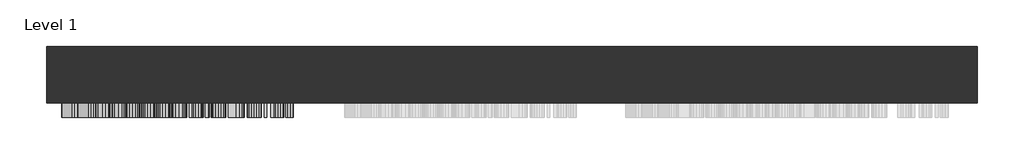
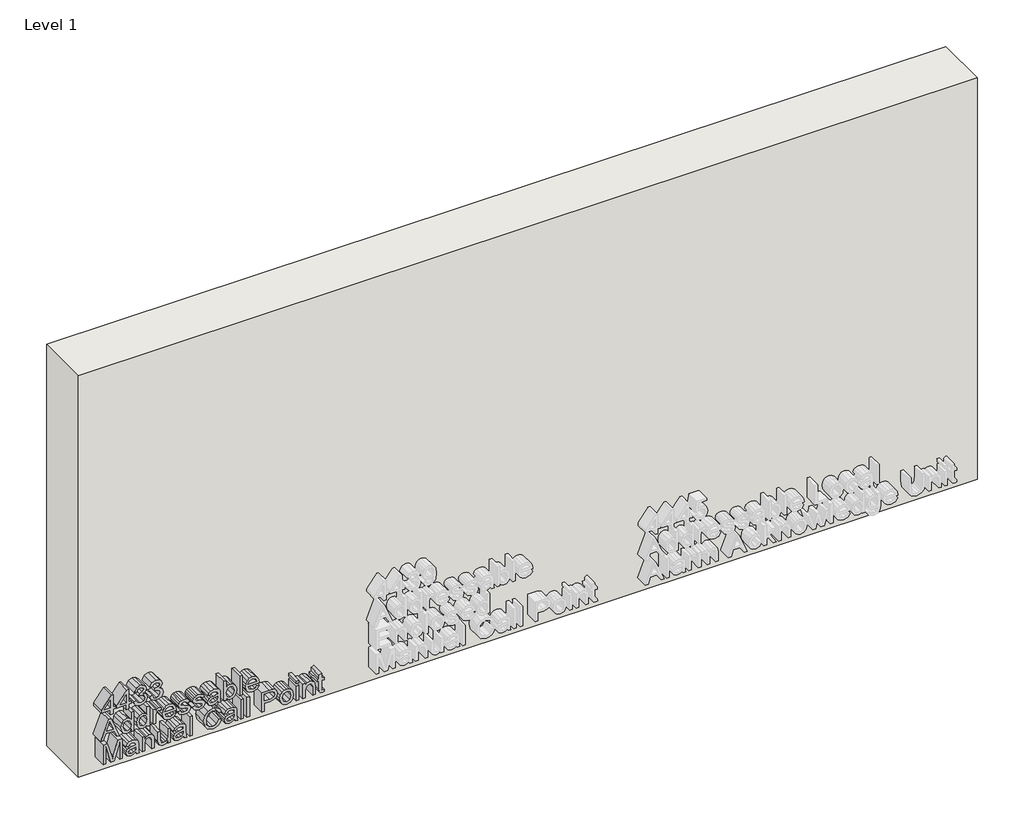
# One storey, part 1 of 3: 1 proxy, 1 wall.
"""IFC4 building model written with IfcOpenShell, lengths in millimetres."""

from ifc_helpers import new_model, si_unit, frame, origin, origin_with_axes, place, context, project, spatial, polyline, outline, extrude, element, save

model = new_model("IFC4")

# Units and contexts
model_context = context("Model", 3, world=origin())
ifc_project = project(units=[si_unit("LENGTHUNIT", "METRE", prefix="MILLI")], contexts=[model_context])

# Site, building, storey
site = spatial("IfcSite", under=ifc_project)
building = spatial("IfcBuilding", under=site)
storey = spatial("IfcBuildingStorey", under=building, Name="Level 1", Elevation=0.0)

# Proxy
placement = place(None, origin())
element("IfcBuildingElementProxy", 1, Name="75 mm Arial", ObjectType="75 mm Arial", at=placement, inside=storey, context=model_context, shape_type="SweptSolid", body=[
    extrude(outline(polyline([(239.699397, -4253.7442573), (239.699397, -4244.3264782), (257.3577328, -4244.3264782), (257.3577328, -4234.9086991), (266.7755119, -4234.9086991), (266.7755119, -4244.3264782), (313.8644073, -4244.3264782), (313.8644073, -4251.3898125), (266.7755119, -4287.8837064), (257.3577328, -4287.8837064), (257.3577328, -4253.7442573), (239.699397, -4253.7442573)]), holes=[polyline([(266.7755119, -4253.7442573), (266.7755119, -4276.2954236), (295.8749777, -4253.7442573), (266.7755119, -4253.7442573)])]), frame((0.0, 3097.8550077, 0.0), z_axis=(0.0, 1.0, 0.0), x_axis=(0.0, 0.0, 1.0)), (0.0, 0.0, 1.0), 50.0),
    extrude(outline(polyline([(239.699397, -4196.0603604), (239.699397, -4186.6425814), (257.3577328, -4186.6425814), (257.3577328, -4177.2248023), (266.7755119, -4177.2248023), (266.7755119, -4186.6425814), (313.8644073, -4186.6425814), (313.8644073, -4193.7059157), (266.7755119, -4230.1998096), (257.3577328, -4230.1998096), (257.3577328, -4196.0603604), (239.699397, -4196.0603604)]), holes=[polyline([(266.7755119, -4196.0603604), (266.7755119, -4218.6115267), (295.8749777, -4196.0603604), (266.7755119, -4196.0603604)])]), frame((0.0, 3097.8550077, 0.0), z_axis=(0.0, 1.0, 0.0), x_axis=(0.0, 0.0, 1.0)), (0.0, 0.0, 1.0), 50.0),
    extrude(outline(polyline([(259.7121776, -4168.9842456), (251.2003079, -4166.6527934), (244.4266807, -4161.497847), (239.9983012, -4154.0850248), (238.5221747, -4144.9799454), (240.25122, -4134.9137743), (245.4383562, -4126.7513925), (253.1086958, -4121.3435272), (262.2873515, -4119.5409054), (274.537822, -4123.146149), (280.9757569, -4133.4100567), (287.2113567, -4125.6845348), (295.8933718, -4123.0725726), (305.3939243, -4125.8224905), (312.4572586, -4133.7687416), (315.0416297, -4145.1270982), (309.7993112, -4160.0998954), (295.0288491, -4167.8070232), (293.8516267, -4158.3892441), (302.6807946, -4153.7723251), (305.6238506, -4144.7960044), (302.7083858, -4135.9300483), (295.3415488, -4132.4903517), (287.0274157, -4137.2360294), (284.4338477, -4149.4313175), (275.0160686, -4150.4797812), (276.0461382, -4143.8762994), (272.1925743, -4133.1709334), (262.4528984, -4128.9586845), (252.1154144, -4133.2077216), (247.9399537, -4144.6488516), (250.9749802, -4154.3701333), (260.8894, -4159.5664665), (259.7121776, -4168.9842456)])), frame((0.0, 3097.8550077, 0.0), z_axis=(0.0, 1.0, 0.0), x_axis=(0.0, 0.0, 1.0)), (0.0, 0.0, 1.0), 50.0),
    extrude(outline(polyline([(259.7121776, -4111.3003487), (251.2003079, -4108.9688966), (244.4266807, -4103.8139501), (239.9983012, -4096.4011279), (238.5221747, -4087.2960486), (240.25122, -4077.2298775), (245.4383562, -4069.0674957), (253.1086958, -4063.6596304), (262.2873515, -4061.8570086), (274.537822, -4065.4622521), (280.9757569, -4075.7261598), (287.2113567, -4068.0006379), (295.8933718, -4065.3886757), (305.3939243, -4068.1385937), (312.4572586, -4076.0848448), (315.0416297, -4087.4432014), (309.7993112, -4102.4159986), (295.0288491, -4110.1231264), (293.8516267, -4100.7053473), (302.6807946, -4096.0884282), (305.6238506, -4087.1121076), (302.7083858, -4078.2461515), (295.3415488, -4074.8064548), (287.0274157, -4079.5521326), (284.4338477, -4091.7474207), (275.0160686, -4092.7958844), (276.0461382, -4086.1924026), (272.1925743, -4075.4870365), (262.4528984, -4071.2747877), (252.1154144, -4075.5238247), (247.9399537, -4086.9649548), (250.9749802, -4096.6862365), (260.8894, -4101.8825697), (259.7121776, -4111.3003487)])), frame((0.0, 3097.8550077, 0.0), z_axis=(0.0, 1.0, 0.0), x_axis=(0.0, 0.0, 1.0)), (0.0, 0.0, 1.0), 50.0),
    extrude(outline(polyline([(148.2182837, -4289.5943577), (148.2182837, -4279.6431497), (171.7627313, -4271.034711), (171.7627313, -4240.0038648), (148.2182837, -4231.377032), (148.2182837, -4221.425824), (223.5605163, -4251.5001771), (223.5605163, -4259.5200046), (148.2182837, -4289.5943577)]), holes=[polyline([(181.1805104, -4267.5766203), (201.3220497, -4260.2005863), (214.1427372, -4255.5100909), (199.7033689, -4250.2309842), (181.1805104, -4243.4435614), (181.1805104, -4267.5766203)])]), frame((0.0, 3097.8550077, 0.0), z_axis=(0.0, 1.0, 0.0), x_axis=(0.0, 0.0, 1.0)), (0.0, 0.0, 1.0), 50.0),
    extrude(outline(polyline([(148.2182837, -4178.4020247), (148.2182837, -4168.9842456), (223.5605163, -4168.9842456), (223.5605163, -4178.4020247), (195.49112, -4178.4020247), (202.1589812, -4184.6008363), (204.7249581, -4193.2828514), (201.1381087, -4205.3033956), (190.8190187, -4213.3784054), (175.8278274, -4216.073141), (160.8458331, -4213.1484791), (150.683093, -4204.9079224), (147.0410613, -4193.2460632), (149.5564544, -4184.633026), (157.1026338, -4178.4020247), (148.2182837, -4178.4020247)]), holes=[polyline([(175.8646156, -4206.6553619), (190.6258807, -4202.6822363), (195.307179, -4192.7678166), (190.4327426, -4182.5498942), (175.1472457, -4178.4020247), (161.0665623, -4182.4763178), (156.4588403, -4192.3815405), (161.2872915, -4202.4063248), (175.8646156, -4206.6553619)])]), frame((0.0, 3097.8550077, 0.0), z_axis=(0.0, 1.0, 0.0), x_axis=(0.0, 0.0, 1.0)), (0.0, 0.0, 1.0), 50.0),
    extrude(outline(polyline([(148.2182837, -4120.7181278), (148.2182837, -4111.3003487), (223.5605163, -4111.3003487), (223.5605163, -4120.7181278), (195.49112, -4120.7181278), (202.1589812, -4126.9169394), (204.7249581, -4135.5989545), (201.1381087, -4147.6194987), (190.8190187, -4155.6945085), (175.8278274, -4158.3892441), (160.8458331, -4155.4645823), (150.683093, -4147.2240256), (147.0410613, -4135.5621663), (149.5564544, -4126.9491291), (157.1026338, -4120.7181278), (148.2182837, -4120.7181278)]), holes=[polyline([(175.8646156, -4148.971465), (190.6258807, -4144.9983395), (195.307179, -4135.0839197), (190.4327426, -4124.8659973), (175.1472457, -4120.7181278), (161.0665623, -4124.7924209), (156.4588403, -4134.6976436), (161.2872915, -4144.722428), (175.8646156, -4148.971465)])]), frame((0.0, 3097.8550077, 0.0), z_axis=(0.0, 1.0, 0.0), x_axis=(0.0, 0.0, 1.0)), (0.0, 0.0, 1.0), 50.0),
    extrude(outline(polyline([(148.2182837, -4097.1736801), (148.2182837, -4087.7559011), (177.2993554, -4087.7559011), (188.299027, -4086.2291908), (193.449375, -4082.8354794), (195.307179, -4077.5103875), (193.3757986, -4070.8885116), (201.8186904, -4067.7431205), (204.7249581, -4077.1976878), (202.9039422, -4083.0837997), (195.3623613, -4088.9331234), (203.5477357, -4088.9331234), (203.5477357, -4097.1736801), (148.2182837, -4097.1736801)])), frame((0.0, 3097.8550077, 0.0), z_axis=(0.0, 1.0, 0.0), x_axis=(0.0, 0.0, 1.0)), (0.0, 0.0, 1.0), 50.0),
    extrude(outline(polyline([(164.699397, -4023.1190345), (158.427009, -4029.1890874), (156.4588403, -4038.4229255), (160.7078774, -4050.5538343), (172.9399537, -4055.9708967), (172.9399537, -4013.6460731), (175.4783395, -4013.5908908), (187.825379, -4015.3774178), (197.0546185, -4020.7369986), (202.8073732, -4028.9108767), (204.7249581, -4039.1402954), (202.8027747, -4049.6985087), (197.0362244, -4058.0862181), (187.7885908, -4063.5630613), (175.4231572, -4065.3886757), (163.4600946, -4063.5814554), (154.4998687, -4058.1597945), (148.9057631, -4049.6571219), (147.0410613, -4038.6068665), (151.3636747, -4022.5212263), (163.5221747, -4013.8851964), (164.699397, -4023.1190345)]), holes=[polyline([(182.3577328, -4055.9708967), (191.7847089, -4050.7745635), (195.307179, -4039.1770836), (190.8925951, -4026.7794604), (182.3577328, -4023.0086699), (182.3577328, -4055.9708967)])]), frame((0.0, 3097.8550077, 0.0), z_axis=(0.0, 1.0, 0.0), x_axis=(0.0, 0.0, 1.0)), (0.0, 0.0, 1.0), 50.0),
    extrude(outline(polyline([(164.699397, -4007.7047789), (151.4924334, -4000.4942918), (147.0410613, -3984.0683607), (149.3495208, -3972.4065015), (155.8886233, -3964.5246297), (164.9017321, -3961.7931059), (173.0871065, -3964.1199595), (178.1086958, -3970.5395003), (182.5416738, -3984.3626663), (184.5466307, -3992.4744643), (186.625164, -3995.9877374), (189.3658848, -3997.1097774), (193.5229514, -3994.4058448), (195.307179, -3985.3927359), (193.4401779, -3977.106194), (188.2438447, -3973.5653297), (189.4210671, -3964.1475507), (197.873156, -3967.3849122), (202.8763511, -3974.6689757), (204.7249581, -3986.1284999), (203.5753269, -3994.2311008), (200.7886208, -4000.2183803), (195.4267407, -4004.8352993), (188.4093916, -4006.5275565), (180.8126284, -4004.4214321), (175.4323543, -3998.2318175), (170.8246323, -3984.0499666), (168.1390937, -3974.356276), (163.9084508, -3971.210885), (158.6845264, -3974.3378819), (156.4588403, -3983.939602), (158.8868615, -3993.9275982), (165.8766194, -3998.2869998), (164.699397, -4007.7047789)])), frame((0.0, 3097.8550077, 0.0), z_axis=(0.0, 1.0, 0.0), x_axis=(0.0, 0.0, 1.0)), (0.0, 0.0, 1.0), 50.0),
    extrude(outline(polyline([(164.699397, -3954.7297716), (151.4924334, -3947.5192845), (147.0410613, -3931.0933534), (149.3495208, -3919.4314942), (155.8886233, -3911.5496224), (164.9017321, -3908.8180986), (173.0871065, -3911.1449522), (178.1086958, -3917.564493), (182.5416738, -3931.387659), (184.5466307, -3939.499457), (186.625164, -3943.01273), (189.3658848, -3944.1347701), (193.5229514, -3941.4308375), (195.307179, -3932.4177286), (193.4401779, -3924.1311866), (188.2438447, -3920.5903224), (189.4210671, -3911.1725434), (197.873156, -3914.4099049), (202.8763511, -3921.6939684), (204.7249581, -3933.1534926), (203.5753269, -3941.2560935), (200.7886208, -3947.243373), (195.4267407, -3951.860292), (188.4093916, -3953.5525492), (180.8126284, -3951.4464248), (175.4323543, -3945.2568102), (170.8246323, -3931.0749593), (168.1390937, -3921.3812687), (163.9084508, -3918.2358777), (158.6845264, -3921.3628746), (156.4588403, -3930.9645947), (158.8868615, -3940.9525909), (165.8766194, -3945.3119925), (164.699397, -3954.7297716)])), frame((0.0, 3097.8550077, 0.0), z_axis=(0.0, 1.0, 0.0), x_axis=(0.0, 0.0, 1.0)), (0.0, 0.0, 1.0), 50.0),
    extrude(outline(polyline([(155.281618, -3862.9064256), (148.2182837, -3860.5519808), (148.2182837, -3851.1342018), (156.1369436, -3853.0103999), (172.4984953, -3853.4886465), (184.2155369, -3853.4886465), (192.4560936, -3853.948499), (198.8480432, -3856.8363727), (203.051095, -3863.2835046), (204.7249581, -3874.6970435), (202.8303658, -3887.1222579), (197.4408946, -3895.3260264), (188.2438447, -3899.4003195), (187.0666223, -3889.9825404), (193.4953602, -3885.4391978), (195.307179, -3875.9110541), (192.5848523, -3865.4999937), (185.6318826, -3862.9064256), (183.5349552, -3862.9616079), (180.2975936, -3879.2955685), (178.881248, -3887.4441547), (175.7910392, -3894.0384394), (170.3831739, -3898.7749201), (162.9335635, -3900.5775419), (151.5108275, -3895.804273), (147.0410613, -3882.1282598), (148.8988653, -3872.0390961), (155.281618, -3862.9064256)]), holes=[polyline([(174.1171761, -3862.9064256), (171.4500317, -3862.9616079), (164.1659681, -3864.45153), (158.7121176, -3870.5951593), (156.4588403, -3880.123303), (158.5005854, -3888.3546626), (163.5957511, -3891.1597628), (167.2193887, -3889.8721758), (169.7025922, -3886.2025529), (171.2293025, -3878.099952), (174.1171761, -3862.9064256)])]), frame((0.0, 3097.8550077, 0.0), z_axis=(0.0, 1.0, 0.0), x_axis=(0.0, 0.0, 1.0)), (0.0, 0.0, 1.0), 50.0),
    extrude(outline(polyline([(148.2182837, -3831.1214212), (157.0290574, -3831.1214212), (149.5380603, -3824.7616612), (147.0410613, -3816.3877473), (148.9770403, -3807.6114625), (154.7849773, -3800.1917425), (164.138377, -3795.1356643), (176.7107442, -3793.4503049), (187.9403421, -3795.0781827), (196.9074657, -3799.5755401), (202.674016, -3806.8963918), (204.7249581, -3816.332565), (202.4486883, -3824.5271365), (195.6198787, -3831.1214212), (223.5605163, -3831.1214212), (223.5605163, -3840.5392003), (148.2182837, -3840.5392003), (148.2182837, -3831.1214212)]), holes=[polyline([(176.2692858, -3831.1214212), (190.4143485, -3826.8723842), (195.307179, -3816.7924175), (190.5798954, -3806.9423771), (175.938192, -3802.868084), (161.3516709, -3807.117121), (156.4588403, -3817.1970877), (158.1189079, -3823.61203), (163.0991104, -3828.5462472), (176.2692858, -3831.1214212)])]), frame((0.0, 3097.8550077, 0.0), z_axis=(0.0, 1.0, 0.0), x_axis=(0.0, 0.0, 1.0)), (0.0, 0.0, 1.0), 50.0),
    extrude(outline(polyline([(-3773.4375244, 3097.8550077), (-3782.8553034, 3097.8550077), (-3782.8553034, 3147.8550077), (-3773.4375244, 3147.8550077), (-3773.4375244, 3097.8550077)])), frame((0.0, 0.0, 148.2182837), z_axis=(0.0, 0.0, 1.0), x_axis=(1.0, 0.0, 0.0)), (0.0, 0.0, 1.0), 75.3422326),
    extrude(outline(polyline([(164.699397, -3720.5728817), (158.427009, -3726.6429346), (156.4588403, -3735.8767727), (160.7078774, -3748.0076815), (172.9399537, -3753.4247438), (172.9399537, -3711.0999203), (175.4783395, -3711.044738), (187.825379, -3712.8312649), (197.0546185, -3718.1908457), (202.8073732, -3726.3647238), (204.7249581, -3736.5941426), (202.8027747, -3747.1523558), (197.0362244, -3755.5400653), (187.7885908, -3761.0169085), (175.4231572, -3762.8425229), (163.4600946, -3761.0353026), (154.4998687, -3755.6136417), (148.9057631, -3747.1109691), (147.0410613, -3736.0607137), (151.3636747, -3719.9750734), (163.5221747, -3711.3390436), (164.699397, -3720.5728817)]), holes=[polyline([(182.3577328, -3753.4247438), (191.7847089, -3748.2284107), (195.307179, -3736.6309308), (190.8925951, -3724.2333075), (182.3577328, -3720.4625171), (182.3577328, -3753.4247438)])]), frame((0.0, 3097.8550077, 0.0), z_axis=(0.0, 1.0, 0.0), x_axis=(0.0, 0.0, 1.0)), (0.0, 0.0, 1.0), 50.0),
    extrude(outline(polyline([(56.7371703, -4280.8203721), (56.7371703, -4271.402593), (122.6616238, -4271.402593), (56.7371703, -4252.4750644), (56.7371703, -4239.7095592), (122.6616238, -4220.7820305), (56.7371703, -4220.7820305), (56.7371703, -4211.3642514), (132.0794029, -4211.3642514), (132.0794029, -4227.5694533), (79.8953419, -4242.7261915), (67.8839947, -4246.0923118), (78.9756369, -4249.2009146), (132.0794029, -4264.6151702), (132.0794029, -4280.8203721), (56.7371703, -4280.8203721)])), frame((0.0, 3097.8550077, 0.0), z_axis=(0.0, 1.0, 0.0), x_axis=(0.0, 0.0, 1.0)), (0.0, 0.0, 1.0), 50.0),
    extrude(outline(polyline([(63.8005046, -4160.7436889), (56.7371703, -4158.3892441), (56.7371703, -4148.971465), (64.6558302, -4150.8476632), (81.017382, -4151.3259098), (92.7344235, -4151.3259098), (100.9749802, -4151.7857623), (107.3669299, -4154.673636), (111.5699817, -4161.1207679), (113.2438447, -4172.5343068), (111.3492525, -4184.9595212), (105.9597812, -4193.1632897), (96.7627313, -4197.2375828), (95.585509, -4187.8198037), (102.0142468, -4183.2764611), (103.8260657, -4173.7483174), (101.1037389, -4163.337257), (94.1507692, -4160.7436889), (92.0538418, -4160.7988712), (88.8164803, -4177.1328318), (87.4001346, -4185.281418), (84.3099258, -4191.8757027), (78.9020605, -4196.6121834), (71.4524501, -4198.4148052), (60.0297141, -4193.6415363), (55.5599479, -4179.9655231), (57.417752, -4169.8763594), (63.8005046, -4160.7436889)]), holes=[polyline([(82.6360627, -4160.7436889), (79.9689183, -4160.7988712), (72.6848548, -4162.2887933), (67.2310042, -4168.4324226), (64.977727, -4177.9605663), (67.019472, -4186.1919259), (72.1146377, -4188.9970261), (75.7382753, -4187.7094391), (78.2214788, -4184.0398162), (79.7481891, -4175.9372153), (82.6360627, -4160.7436889)])]), frame((0.0, 3097.8550077, 0.0), z_axis=(0.0, 1.0, 0.0), x_axis=(0.0, 0.0, 1.0)), (0.0, 0.0, 1.0), 50.0),
    extrude(outline(polyline([(56.7371703, -4138.3764636), (56.7371703, -4128.9586845), (86.0941535, -4128.9586845), (100.1288516, -4124.6636622), (103.8260657, -4114.4457398), (102.1797937, -4107.9802137), (97.7744068, -4104.1450439), (89.4418796, -4103.0597921), (56.7371703, -4103.0597921), (56.7371703, -4093.642013), (90.7110725, -4093.642013), (99.8161519, -4094.1386537), (106.7415305, -4096.962148), (111.45042, -4103.0322009), (113.2438447, -4111.9257481), (111.0181587, -4121.7573945), (104.3411004, -4128.9586845), (112.0666223, -4128.9586845), (112.0666223, -4138.3764636), (56.7371703, -4138.3764636)])), frame((0.0, 3097.8550077, 0.0), z_axis=(0.0, 1.0, 0.0), x_axis=(0.0, 0.0, 1.0)), (0.0, 0.0, 1.0), 50.0),
    extrude(outline(polyline([(56.7371703, -4045.3758952), (56.7371703, -4035.9581161), (112.0666223, -4035.9581161), (112.0666223, -4045.3758952), (83.2798562, -4045.3758952), (72.7860223, -4046.9026055), (67.0746543, -4052.0989387), (64.977727, -4059.9624163), (67.0286691, -4066.9797654), (72.6664607, -4070.7045706), (82.2681807, -4071.2747877), (112.0666223, -4071.2747877), (112.0666223, -4080.6925667), (77.8352027, -4080.6925667), (69.0796112, -4080.1407438), (62.1450356, -4077.3356435), (57.4361461, -4071.2288024), (55.5599479, -4062.3720434), (58.2316909, -4052.7519292), (66.2469198, -4045.3758952), (56.7371703, -4045.3758952)])), frame((0.0, 3097.8550077, 0.0), z_axis=(0.0, 1.0, 0.0), x_axis=(0.0, 0.0, 1.0)), (0.0, 0.0, 1.0), 50.0),
    extrude(outline(polyline([(63.8005046, -3987.6919984), (56.7371703, -3985.3375536), (56.7371703, -3975.9197745), (64.6558302, -3977.7959727), (81.017382, -3978.2742193), (92.7344235, -3978.2742193), (100.9749802, -3978.7340718), (107.3669299, -3981.6219454), (111.5699817, -3988.0690774), (113.2438447, -3999.4826163), (111.3492525, -4011.9078307), (105.9597812, -4020.1115992), (96.7627313, -4024.1858923), (95.585509, -4014.7681132), (102.0142468, -4010.2247706), (103.8260657, -4000.6966269), (101.1037389, -3990.2855664), (94.1507692, -3987.6919984), (92.0538418, -3987.7471807), (88.8164803, -4004.0811412), (87.4001346, -4012.2297274), (84.3099258, -4018.8240122), (78.9020605, -4023.5604929), (71.4524501, -4025.3631147), (60.0297141, -4020.5898458), (55.5599479, -4006.9138326), (57.417752, -3996.8246689), (63.8005046, -3987.6919984)]), holes=[polyline([(82.6360627, -3987.6919984), (79.9689183, -3987.7471807), (72.6848548, -3989.2371027), (67.2310042, -3995.3807321), (64.977727, -4004.9088757), (67.019472, -4013.1402354), (72.1146377, -4015.9453356), (75.7382753, -4014.6577486), (78.2214788, -4010.9881257), (79.7481891, -4002.8855248), (82.6360627, -3987.6919984)])]), frame((0.0, 3097.8550077, 0.0), z_axis=(0.0, 1.0, 0.0), x_axis=(0.0, 0.0, 1.0)), (0.0, 0.0, 1.0), 50.0),
    extrude(outline(polyline([(-3955.906994, 3097.8550077), (-3965.3247731, 3097.8550077), (-3965.3247731, 3147.8550077), (-3955.906994, 3147.8550077), (-3955.906994, 3097.8550077)])), frame((0.0, 0.0, 56.7371703), z_axis=(0.0, 0.0, 1.0), x_axis=(1.0, 0.0, 0.0)), (0.0, 0.0, 1.0), 75.3422326),
    extrude(outline(polyline([(83.5189795, -3858.1975361), (69.6498283, -3866.1897724), (64.977727, -3880.6015496), (68.4082266, -3893.596981), (78.7733018, -3902.444543), (94.9968978, -3905.2864314), (108.9948077, -3902.8860014), (119.8105383, -3894.5626713), (123.8388462, -3879.8289974), (120.2060115, -3867.1002803), (108.6269257, -3859.3747584), (110.8710059, -3849.9569794), (120.3255731, -3854.1163452), (127.3889074, -3860.5979661), (131.7896958, -3869.1351276), (133.2566253, -3879.4611154), (128.7224797, -3897.5609095), (115.4511367, -3910.2436413), (94.9785037, -3914.7042105), (74.8369644, -3910.7586761), (60.5079607, -3899.2623638), (55.5599479, -3879.6634505), (57.1947235, -3868.9029021), (62.0990504, -3859.9449755), (70.1165786, -3853.1253631), (81.0909584, -3848.779757), (83.5189795, -3858.1975361)])), frame((0.0, 3097.8550077, 0.0), z_axis=(0.0, 1.0, 0.0), x_axis=(0.0, 0.0, 1.0)), (0.0, 0.0, 1.0), 50.0),
    extrude(outline(polyline([(63.8005046, -3801.6908616), (56.7371703, -3799.3364168), (56.7371703, -3789.9186378), (64.6558302, -3791.7948359), (81.017382, -3792.2730825), (92.7344235, -3792.2730825), (100.9749802, -3792.732935), (107.3669299, -3795.6208087), (111.5699817, -3802.0679406), (113.2438447, -3813.4814795), (111.3492525, -3825.9066939), (105.9597812, -3834.1104624), (96.7627313, -3838.1847555), (95.585509, -3828.7669764), (102.0142468, -3824.2236338), (103.8260657, -3814.6954901), (101.1037389, -3804.2844297), (94.1507692, -3801.6908616), (92.0538418, -3801.7460439), (88.8164803, -3818.0800045), (87.4001346, -3826.2285907), (84.3099258, -3832.8228754), (78.9020605, -3837.5593561), (71.4524501, -3839.3619779), (60.0297141, -3834.588709), (55.5599479, -3820.9126958), (57.417752, -3810.8235321), (63.8005046, -3801.6908616)]), holes=[polyline([(82.6360627, -3801.6908616), (79.9689183, -3801.7460439), (72.6848548, -3803.235966), (67.2310042, -3809.3795953), (64.977727, -3818.907739), (67.019472, -3827.1390986), (72.1146377, -3829.9441988), (75.7382753, -3828.6566118), (78.2214788, -3824.9869889), (79.7481891, -3816.884388), (82.6360627, -3801.6908616)])]), frame((0.0, 3097.8550077, 0.0), z_axis=(0.0, 1.0, 0.0), x_axis=(0.0, 0.0, 1.0)), (0.0, 0.0, 1.0), 50.0),
    extrude(outline(polyline([(-3769.9058572, 3097.8550077), (-3779.3236363, 3097.8550077), (-3779.3236363, 3147.8550077), (-3769.9058572, 3147.8550077), (-3769.9058572, 3097.8550077)])), frame((0.0, 0.0, 56.7371703), z_axis=(0.0, 0.0, 1.0), x_axis=(1.0, 0.0, 0.0)), (0.0, 0.0, 1.0), 75.3422326),
    extrude(outline(polyline([(-3746.3614095, 3097.8550077), (-3755.7791886, 3097.8550077), (-3755.7791886, 3147.8550077), (-3746.3614095, 3147.8550077), (-3746.3614095, 3097.8550077)])), frame((0.0, 0.0, 56.7371703), z_axis=(0.0, 0.0, 1.0), x_axis=(1.0, 0.0, 0.0)), (0.0, 0.0, 1.0), 75.3422326),
    extrude(outline(polyline([(56.7371703, -3701.6269589), (56.7371703, -3692.2091798), (87.3449523, -3692.2091798), (87.3449523, -3673.060922), (89.0096183, -3659.6815137), (94.0036164, -3651.1811403), (101.402643, -3646.6354984), (110.2823947, -3645.1202845), (120.5554994, -3647.3643646), (127.8395629, -3653.2964618), (131.362033, -3662.4475264), (132.0794029, -3673.7047155), (132.0794029, -3701.6269589), (56.7371703, -3701.6269589)]), holes=[polyline([(96.7627313, -3692.2091798), (122.6616238, -3692.2091798), (122.6616238, -3672.7298282), (122.0178303, -3663.3120491), (117.7503992, -3656.9568876), (109.9513009, -3654.5380635), (100.2208221, -3658.6399478), (96.7627313, -3672.509099), (96.7627313, -3692.2091798)])]), frame((0.0, 3097.8550077, 0.0), z_axis=(0.0, 1.0, 0.0), x_axis=(0.0, 0.0, 1.0)), (0.0, 0.0, 1.0), 50.0),
    extrude(outline(polyline([(84.4018963, -3635.7025054), (72.0594554, -3633.9941534), (62.9911642, -3628.8690973), (57.417752, -3620.9757293), (55.5599479, -3610.9624412), (58.9352652, -3598.206133), (68.4174236, -3589.3125858), (85.1744485, -3586.2591652), (96.9029864, -3587.9859113), (105.7850373, -3593.1661497), (111.3791429, -3601.0687148), (113.2438447, -3610.9624412), (111.7125359, -3620.0031412), (107.1186095, -3627.5539192), (97.7422172, -3633.6653588), (84.4018963, -3635.7025054)]), holes=[polyline([(84.4202904, -3626.2847263), (98.9976145, -3621.9253247), (103.8260657, -3610.9624412), (98.9792204, -3600.0639371), (84.714596, -3595.6769443), (69.8521634, -3600.0363459), (64.977727, -3610.9624412), (69.8245723, -3621.9253247), (84.4202904, -3626.2847263)])]), frame((0.0, 3097.8550077, 0.0), z_axis=(0.0, 1.0, 0.0), x_axis=(0.0, 0.0, 1.0)), (0.0, 0.0, 1.0), 50.0),
    extrude(outline(polyline([(-3566.2463847, 3097.8550077), (-3575.6641638, 3097.8550077), (-3575.6641638, 3147.8550077), (-3566.2463847, 3147.8550077), (-3566.2463847, 3097.8550077)])), frame((0.0, 0.0, 122.6616238), z_axis=(0.0, 0.0, 1.0), x_axis=(1.0, 0.0, 0.0)), (0.0, 0.0, 1.0), 9.4177791),
    extrude(outline(polyline([(-3566.2463847, 3097.8550077), (-3575.6641638, 3097.8550077), (-3575.6641638, 3147.8550077), (-3566.2463847, 3147.8550077), (-3566.2463847, 3097.8550077)])), frame((0.0, 0.0, 56.7371703), z_axis=(0.0, 0.0, 1.0), x_axis=(1.0, 0.0, 0.0)), (0.0, 0.0, 1.0), 55.3294521),
    extrude(outline(polyline([(56.7371703, -3552.1197161), (56.7371703, -3542.701937), (86.0941535, -3542.701937), (100.1288516, -3538.4069147), (103.8260657, -3528.1889923), (102.1797937, -3521.7234662), (97.7744068, -3517.8882964), (89.4418796, -3516.8030445), (56.7371703, -3516.8030445), (56.7371703, -3507.3852655), (90.7110725, -3507.3852655), (99.8161519, -3507.8819062), (106.7415305, -3510.7054005), (111.45042, -3516.7754534), (113.2438447, -3525.6690006), (111.0181587, -3535.5006469), (104.3411004, -3542.701937), (112.0666223, -3542.701937), (112.0666223, -3552.1197161), (56.7371703, -3552.1197161)])), frame((0.0, 3097.8550077, 0.0), z_axis=(0.0, 1.0, 0.0), x_axis=(0.0, 0.0, 1.0)), (0.0, 0.0, 1.0), 50.0),
    extrude(outline(polyline([(64.5914509, -3474.4230387), (64.977727, -3478.5249229), (65.6123234, -3481.7346933), (67.3321717, -3483.3441771), (72.1882141, -3483.8408178), (102.6488433, -3483.8408178), (102.6488433, -3474.4230387), (112.0666223, -3474.4230387), (112.0666223, -3483.8408178), (131.0493333, -3483.8408178), (125.5127093, -3493.2585968), (112.0666223, -3493.2585968), (112.0666223, -3500.3219312), (102.6488433, -3500.3219312), (102.6488433, -3493.2585968), (71.9123026, -3493.2585968), (61.2253306, -3492.1181627), (57.1234464, -3488.1818253), (55.5599479, -3480.2907565), (56.4612588, -3473.2458163), (64.5914509, -3474.4230387)])), frame((0.0, 3097.8550077, 0.0), z_axis=(0.0, 1.0, 0.0), x_axis=(0.0, 0.0, 1.0)), (0.0, 0.0, 1.0), 50.0),
])

# Wall
element("IfcWall", 2, ObjectType="Generic - 200mm", at=placement, inside=storey, context=model_context, shape_type="SweptSolid", body=[
    extrude(outline(polyline([(-1062.5746592, 3147.8550077), (-4342.5746592, 3147.8550077), (-4342.5746592, 3347.8550077), (-1062.5746592, 3347.8550077), (-1062.5746592, 3147.8550077)])), origin_with_axes(), (0.0, 0.0, 1.0), 1547.7099184),
])

save(model, "model.ifc")
